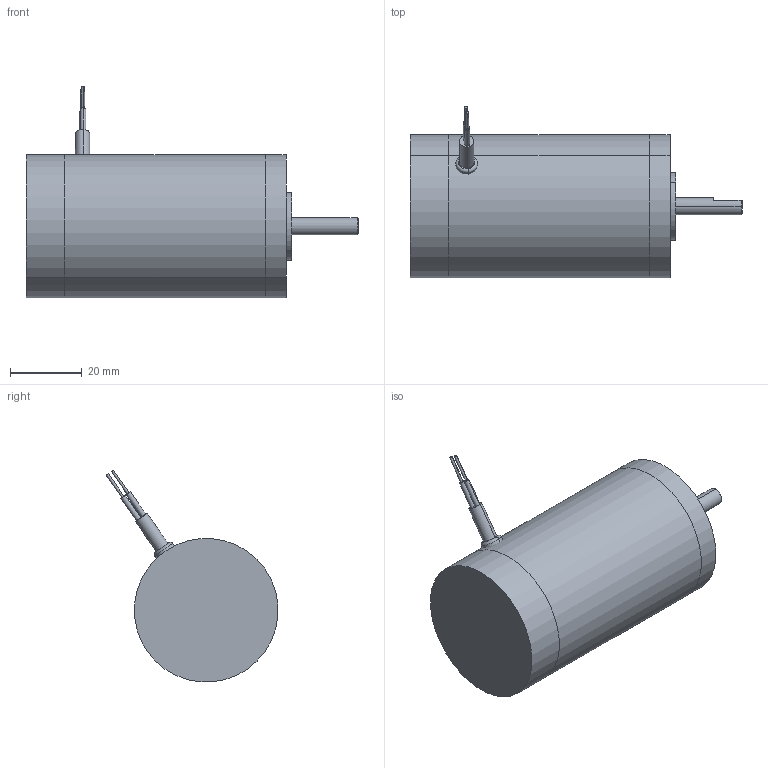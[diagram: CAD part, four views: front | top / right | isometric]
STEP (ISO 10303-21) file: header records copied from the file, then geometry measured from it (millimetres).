
FILE_DESCRIPTION (( 'STEP AP203' ), '1' );
FILE_NAME ('tm40285.step', '2018-12-07T18:52:50', ( '' ), ( '' ), 'SwSTEP 2.0', 'SolidWorks 2017', '' );
FILE_SCHEMA (( 'CONFIG_CONTROL_DESIGN' ));
Length unit declared in the file: inch
Products named in the file (1): tm40285
Bounding box: 92.36 x 47.76 x 58.92 mm (x, y, z)
Volume: 91678 mm3; surface area: 18096.6 mm2
Topology: 8 solids, 8 shells, 113 faces, 233 edges, 146 vertices
Faces by surface type: plane 51, cylinder 45, torus 10, sphere 4, cone 3
Entity records: 3163 total; most frequent: DIRECTION 604, CARTESIAN_POINT 553, ORIENTED_EDGE 466, AXIS2_PLACEMENT_3D 261, EDGE_CURVE 233, CIRCLE 147, VERTEX_POINT 146, EDGE_LOOP 131
